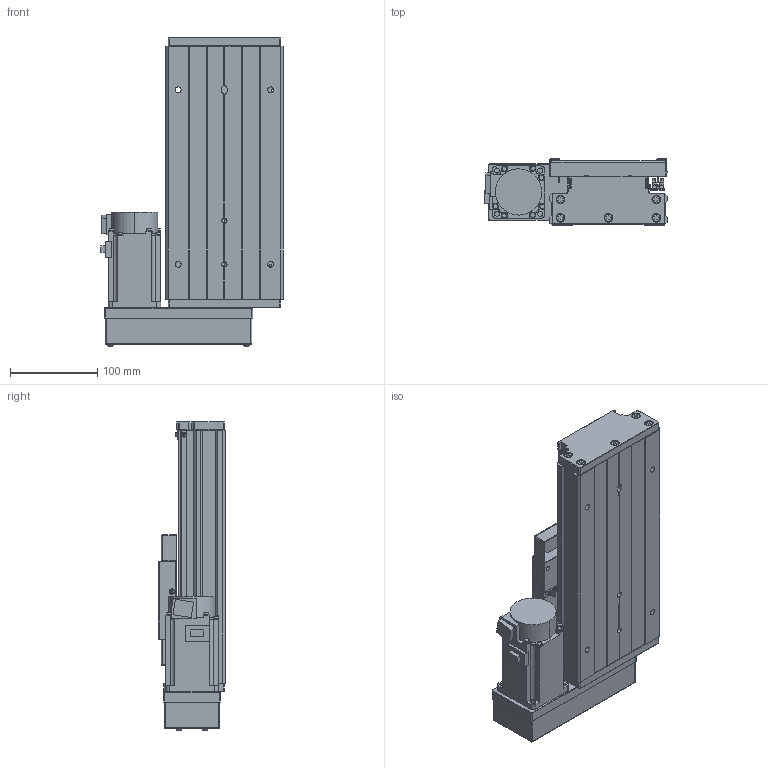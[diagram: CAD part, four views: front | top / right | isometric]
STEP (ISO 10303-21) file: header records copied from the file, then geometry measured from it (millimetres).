
FILE_DESCRIPTION (( 'STEP AP203' ), '1' );
FILE_NAME ('CTH130-100-BL-M40-C4.step', '2023-06-30T02:36:04', ( '微软用户' ), ( '微软中国' ), 'SwSTEP 2.0', 'SolidWorks 2020', '' );
FILE_SCHEMA (( 'CONFIG_CONTROL_DESIGN' ));
Length unit declared in the file: millimetre
Products named in the file (20): GB1155-6X6; CTH130-031; GBT70.1 M5℅16; GBT 70.2-M3¡Á5_M3¡Á6; GTH14-001_100; CTHA60-017; す晦芛蹟隊 M3℅5; CTH130-002_GTH14-002; EE_SX911P_R; HG-KN43J-S100; CTH130-100-BL-M40-C4; GB T308.1-2013-6.35; CTHA60-016; GBT 70.2-M4¡Á35_M4¡Á35; GTH14-004; GBT 70.1-M3℅5; GTH14-015-2_CTHA86-015-2; GTH14-005; GBT77-2000 M3×3; GTH14-033
Assembly tree (60 placements, depth 2):
  CTH130-100-BL-M40-C4
    GTH14-001_100
    CTH130-002_GTH14-002
    GB T308.1-2013-6.35  x2
    GTH14-004
    GTH14-005
    GB1155-6X6  x2
    GBT70.1 M5℅16  x10
    CTHA60-017  x3
    EE_SX911P_R  x3
    CTHA60-016  x2
    GBT 70.1-M3℅5  x6
    GBT77-2000 M3×3  x6
    CTH130-031
    GBT 70.2-M3¡Á5_M3¡Á6  x8
    す晦芛蹟隊 M3℅5  x6
    HG-KN43J-S100
    GBT 70.2-M4¡Á35_M4¡Á35  x4
    GTH14-015-2_CTHA86-015-2
    GTH14-033
Bounding box: 209.3 x 76 x 354.2 mm (x, y, z)
Volume: 2230828 mm3; surface area: 461361.6 mm2
Topology: 63 solids, 63 shells, 2405 faces, 5725 edges, 3537 vertices
Faces by surface type: plane 1304, cylinder 622, cone 299, torus 124, sphere 36, bspline 20
Entity records: 43000 total; most frequent: CARTESIAN_POINT 9697, DIRECTION 6222, ORIENTED_EDGE 6156, EDGE_CURVE 3078, AXIS2_PLACEMENT_3D 2106, LINE 2010, VECTOR 2010, VERTEX_POINT 1947
